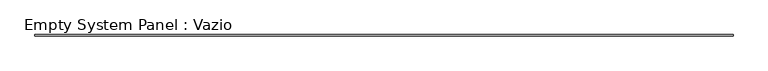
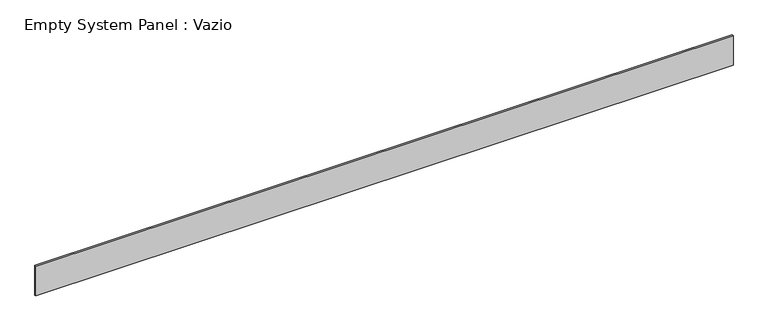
"""IFC4 building model written with IfcOpenShell, lengths in millimetres: plate geometry, Empty System Panel : Vazio."""

from ifc_helpers import new_model, si_unit, origin, origin_with_axes, place, context, project, spatial, polyline, outline, extrude, source, transform, mapped, element, save


def empty_system_panel_vazio_700aa425(model_context):
    return source(origin(), model_context, "Body", "SweptSolid", [
        extrude(outline(polyline([(23960.2135497, 50.0), (-23960.2135497, 50.0), (-23960.2135497, 150.0), (23960.2135497, 150.0), (23960.2135497, 50.0)])), origin_with_axes(), (0.0, 0.0, 1.0), 2160.8609057),
    ])


if __name__ == "__main__":
    model = new_model("IFC4")
    model_context = context("Model", 3, world=origin())
    ifc_project = project(units=[si_unit("LENGTHUNIT", "METRE", prefix="MILLI")], contexts=[model_context])
    site = spatial("IfcSite", under=ifc_project)
    building = spatial("IfcBuilding", under=site)
    placement = place(None, origin())
    empty_system_panel_vazio_shape = empty_system_panel_vazio_700aa425(model_context)
    element("IfcPlate", 1, ObjectType="Empty System Panel : Vazio", at=placement, inside=building, context=model_context, shape_type="MappedRepresentation", body=[
        mapped(empty_system_panel_vazio_shape, transform((0.0, 0.0, 0.0), x_axis=(1.0, 0.0, 0.0), y_axis=(0.0, 1.0, 0.0), z_axis=(0.0, 0.0, 1.0))),
    ])
    save(model, "model.ifc")
